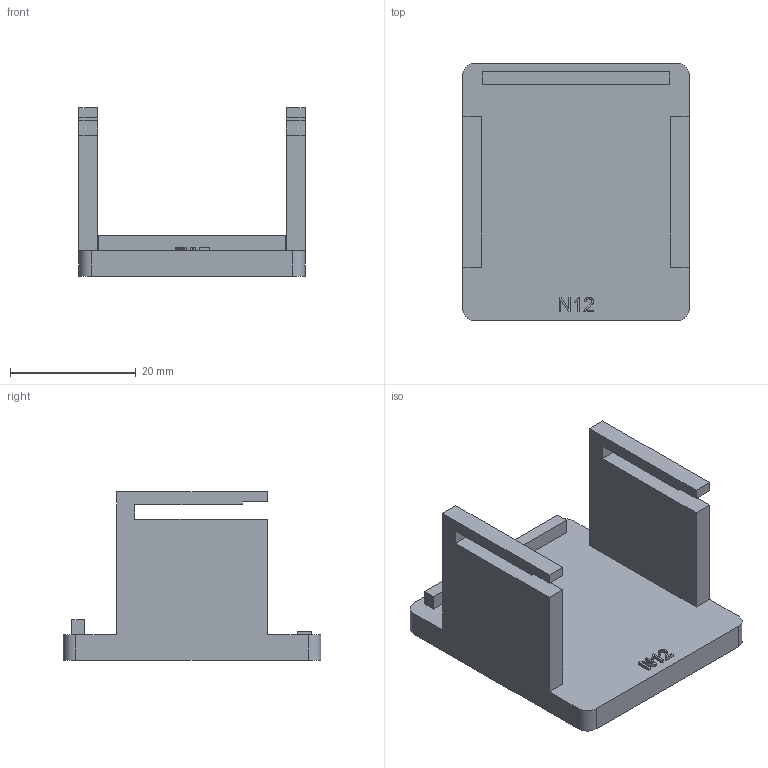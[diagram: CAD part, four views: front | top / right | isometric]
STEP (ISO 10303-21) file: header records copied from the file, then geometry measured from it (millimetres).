
FILE_DESCRIPTION(('Open CASCADE Model'),'2;1');
FILE_NAME('Open CASCADE Shape Model','1970-01-01T00:00:00',('Author'),( 'Open CASCADE'),'Open CASCADE STEP processor 7.8','Open CASCADE 7.8' ,'Unknown');
FILE_SCHEMA(('AUTOMOTIVE_DESIGN { 1 0 10303 214 1 1 1 1 }'));
Length unit declared in the file: millimetre
Products named in the file (2): Open CASCADE STEP translator 7.8 28; N12D neck storage shoe
Assembly tree (1 placements, depth 2):
  Open CASCADE STEP translator 7.8 28
    N12D neck storage shoe
Bounding box: 36 x 41 x 26.73 mm (x, y, z)
Volume: 8997.5 mm3; surface area: 6215.6 mm2
Topology: 1 solids, 1 shells, 79 faces, 219 edges, 146 vertices
Faces by surface type: plane 53, extrusion 22, cylinder 4
Entity records: 5651 total; most frequent: CARTESIAN_POINT 1596, DIRECTION 593, VECTOR 453, ORIENTED_EDGE 438, PCURVE 438, DEFINITIONAL_REPRESENTATION 438, LINE 431, B_SPLINE_CURVE_WITH_KNOTS 232
